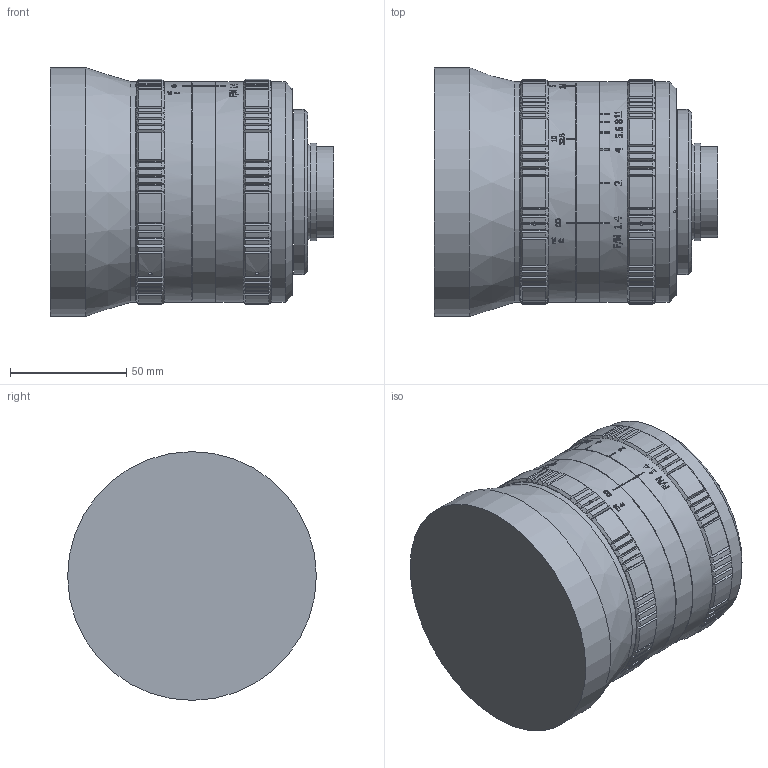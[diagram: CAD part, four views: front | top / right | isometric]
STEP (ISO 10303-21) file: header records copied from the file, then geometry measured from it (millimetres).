
FILE_DESCRIPTION((''),'2;1');
FILE_NAME('\\10.0.0.209\Doc Produ\Meccaniche\STP\A_2008\C0810\C0810_000\C0810_003.stp','2014-04-28T11:50:57',('mcilia'),(''),'Autodesk Inventor 2010','Autodesk Inventor 2010','');
FILE_SCHEMA(('AUTOMOTIVE_DESIGN { 1 0 10303 214 1 1 1 1 }'));
Length unit declared in the file: millimetre
Products named in the file (2): C0810_003_000 (Livello di dettaglio sostituto1); C0810_003
Assembly tree (1 placements, depth 2):
  C0810_003_000 (Livello di dettaglio sostituto1)
    C0810_003
Bounding box: 121.85 x 107 x 107 mm (x, y, z)
Surface area: 130473.7 mm2 (no closed solid volume)
Topology: 0 solids, 25 shells, 642 faces, 1972 edges, 1341 vertices
Faces by surface type: plane 268, cone 228, cylinder 130, bspline 16
Full cylindrical faces by diameter (mm): 39 x1, 40.7 x1, 42 x1, 71 x1, 91 x2, 95 x4, 107 x1
Entity records: 23377 total; most frequent: CARTESIAN_POINT 6963, ORIENTED_EDGE 3197, DIRECTION 3096, EDGE_CURVE 1920, VERTEX_POINT 1323, AXIS2_PLACEMENT_3D 1258, EDGE_LOOP 733, FACE_OUTER_BOUND 642
